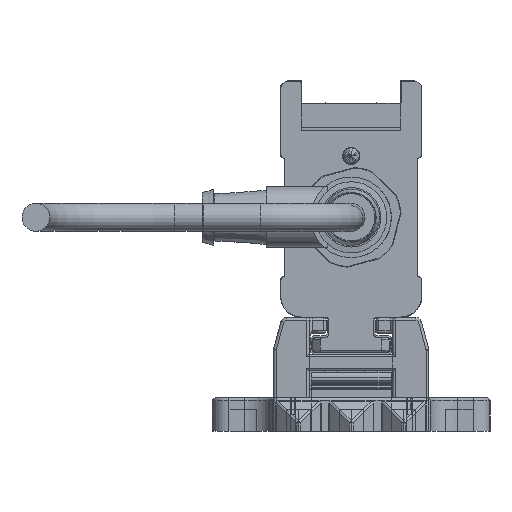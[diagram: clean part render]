
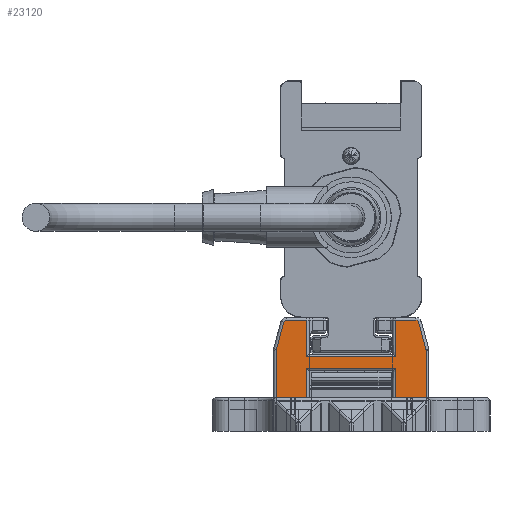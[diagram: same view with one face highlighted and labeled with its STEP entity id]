
A CAD part, left-side view. The second image highlights one B-rep face of the part: STEP entity #23120.
In plain terms, the highlighted planar face has unit normal (-1, 0, 0).
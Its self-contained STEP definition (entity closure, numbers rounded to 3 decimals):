
#23120=ADVANCED_FACE('', (#23130), #23140, .T.);
#117610=AXIS2_PLACEMENT_3D('Ax2Pl3d', #117620, #117630, #117640);
#117850=AXIS2_PLACEMENT_3D('Ax2Pl3d', #117860, #117870, #117880);
#122730=AXIS2_PLACEMENT_3D('Ax2Pl3d', #122740, #122750, #122760);
#127810=AXIS2_PLACEMENT_3D('Ax2Pl3d', #127820, #127830, #127840);
#137490=AXIS2_PLACEMENT_3D('Ax2Pl3d', #137500, #137510, #137520);
#453240=CARTESIAN_POINT('', (-747.669,-2246.345,
331.37));
#117620=CARTESIAN_POINT('HicPkt', (-747.669,-2245.379,
331.111));
#453250=CARTESIAN_POINT('', (-747.669,-2246.379,
331.111));
#453260=CARTESIAN_POINT('', (-747.669,-2245.037,
336.255));
#453280=CARTESIAN_POINT('', (-747.669,-2245.037,
336.255));
#453310=CARTESIAN_POINT('', (-747.669,-2244.554,
336.625));
#117860=CARTESIAN_POINT('HicPkt', (-747.669,-2244.554,
336.125));
#453530=CARTESIAN_POINT('', (-747.669,-2246.379,
322.625));
#453540=CARTESIAN_POINT('', (-747.669,-2240.881,
322.625));
#453550=CARTESIAN_POINT('', (-747.669,-2240.881,
322.625));
#453630=CARTESIAN_POINT('', (-747.669,-2224.881,
322.625));
#453640=CARTESIAN_POINT('', (-747.669,-2219.383,
322.625));
#453650=CARTESIAN_POINT('', (-747.669,-2219.383,
322.625));
#122740=CARTESIAN_POINT('HicPkt', (-747.669,-2221.209,
336.125));
#456120=CARTESIAN_POINT('', (-747.669,-2220.726,
336.255));
#456130=CARTESIAN_POINT('', (-747.669,-2221.209,
336.625));
#456140=CARTESIAN_POINT('', (-747.669,-2240.881,
330.025));
#456150=CARTESIAN_POINT('', (-747.669,-2224.881,
330.025));
#456160=CARTESIAN_POINT('', (-747.669,-2240.881,
330.025));
#456320=CARTESIAN_POINT('', (-747.669,-2240.881,
328.005));
#456330=CARTESIAN_POINT('', (-747.669,-2224.881,
328.005));
#456340=CARTESIAN_POINT('', (-747.669,-2224.881,
328.005));
#456350=CARTESIAN_POINT('', (-747.669,-2240.881,
328.005));
#456370=CARTESIAN_POINT('', (-747.669,-2224.881,
322.625));
#456380=CARTESIAN_POINT('', (-747.669,-2224.881,
330.025));
#456390=CARTESIAN_POINT('', (-747.669,-2224.881,336.625)
);
#457240=CARTESIAN_POINT('', (-747.669,-2224.881,336.625)
);
#457250=CARTESIAN_POINT('', (-747.669,-2220.726,
336.255));
#457260=CARTESIAN_POINT('', (-747.669,-2219.417,
331.37));
#457450=CARTESIAN_POINT('', (-747.669,-2219.383,331.111)
);
#457460=CARTESIAN_POINT('', (-747.669,-2219.383,331.111)
);
#127820=CARTESIAN_POINT('HicPkt', (-747.669,-2220.383,
331.111));
#458270=CARTESIAN_POINT('', (-747.669,-2246.379,
331.111));
#137500=CARTESIAN_POINT('HicPkt', (-747.669,-2244.554,
336.625));
#460070=CARTESIAN_POINT('', (-747.669,-2240.881,
336.625));
#460080=CARTESIAN_POINT('', (-747.669,-2240.881,
336.625));
#460090=CARTESIAN_POINT('', (-747.669,-2240.881,
336.625));
#522140=CIRCLE('Circle', #117610, 1.);
#522180=CIRCLE('Circle', #117850, 0.5);
#522760=CIRCLE('Circle', #122730, 0.5);
#523290=CIRCLE('Circle', #127810, 1.);
#117630=DIRECTION('Axis', (-1.,0.,
0.));
#117640=DIRECTION('RefDirection', (0.,
0.,-1.));
#730180=DIRECTION('', (0.,0.259,
0.966));
#117870=DIRECTION('Axis', (-1.,0.,
0.));
#117880=DIRECTION('RefDirection', (0.,
0.,-1.));
#730290=DIRECTION('', (0.,1.,0.));
#730330=DIRECTION('', (0.,1.,0.));
#122750=DIRECTION('Axis', (1.,0.,
0.));
#122760=DIRECTION('RefDirection', (0.,
0.,-1.));
#731520=DIRECTION('', (0.,-1.,0.));
#731620=DIRECTION('', (0.,1.,0.));
#731630=DIRECTION('', (0.,0.,1.));
#731650=DIRECTION('', (0.,0.,-1.));
#731660=DIRECTION('', (0.,0.,-1.));
#732090=DIRECTION('', (0.,-1.,0.));
#732100=DIRECTION('', (0.,-0.259,0.966));
#732190=DIRECTION('', (0.,0.,1.));
#127830=DIRECTION('Axis', (1.,0.,
0.));
#127840=DIRECTION('RefDirection', (0.,
0.,-1.));
#732560=DIRECTION('', (0.,0.,1.));
#137510=DIRECTION('Axis', (-1.,0.,
0.));
#137520=DIRECTION('RefDirection', (0.,
0.,-1.));
#733400=DIRECTION('', (0.,1.,0.));
#733410=DIRECTION('', (0.,0.,1.));
#785930=EDGE_CURVE('', #785940, #785920, #522140, .T.);
#785990=EDGE_CURVE('', #785920, #785970, #786000, .T.);
#786060=EDGE_CURVE('', #785970, #786050, #522180, .T.);
#786510=EDGE_CURVE('', #786500, #786520, #786530, .T.);
#786670=EDGE_CURVE('', #786660, #786680, #786690, .T.);
#791030=EDGE_CURVE('', #791040, #791050, #522760, .T.);
#791080=EDGE_CURVE('', #791090, #791100, #791110, .T.);
#791450=EDGE_CURVE('', #791430, #791460, #791470, .T.);
#791500=EDGE_CURVE('', #786520, #791430, #791510, .T.);
#791540=EDGE_CURVE('', #791460, #786660, #791550, .T.);
#791560=EDGE_CURVE('', #791570, #791090, #791580, .T.);
#793400=EDGE_CURVE('', #791050, #791570, #793410, .T.);
#793470=EDGE_CURVE('', #793480, #791040, #793490, .T.);
#793910=EDGE_CURVE('', #786680, #793920, #793930, .T.);
#793950=EDGE_CURVE('', #793920, #793480, #523290, .T.);
#795660=EDGE_CURVE('', #786500, #785940, #795670, .T.);
#799470=EDGE_CURVE('', #786050, #799480, #799490, .T.);
#799500=EDGE_CURVE('', #791100, #799480, #799510, .T.);
#950330=EDGE_LOOP('Edge_loop', (#950340,#950350,#950360,#950370,#950380,
#950390,#950400,#950410,#950420,#950430,#950440,#950450,#950460,#950470,
#950480,#950490,#950500,#950510));
#23130=FACE_OUTER_BOUND('Face_outer_bound', #950330, .T.);
#786000=LINE('Line', #453280, #1078570);
#786530=LINE('Line', #453540, #1078680);
#786690=LINE('Line', #453640, #1078720);
#791110=LINE('Line', #456140, #1079910);
#791470=LINE('Line', #456330, #1080010);
#791510=LINE('Line', #456350, #1080020);
#791550=LINE('Line', #456370, #1080040);
#791580=LINE('Line', #456380, #1080050);
#793410=LINE('Line', #457240, #1080480);
#793490=LINE('Line', #457250, #1080490);
#793930=LINE('Line', #457450, #1080580);
#795670=LINE('Line', #458270, #1080950);
#799490=LINE('Line', #460070, #1081790);
#799510=LINE('Line', #460090, #1081800);
#950340=ORIENTED_EDGE('', *, *, #799470, .T.);
#950350=ORIENTED_EDGE('', *, *, #799500, .F.);
#950360=ORIENTED_EDGE('', *, *, #791080, .F.);
#950370=ORIENTED_EDGE('', *, *, #791560, .F.);
#950380=ORIENTED_EDGE('', *, *, #793400, .F.);
#950390=ORIENTED_EDGE('', *, *, #791030, .F.);
#950400=ORIENTED_EDGE('', *, *, #793470, .F.);
#950410=ORIENTED_EDGE('', *, *, #793950, .F.);
#950420=ORIENTED_EDGE('', *, *, #793910, .F.);
#950430=ORIENTED_EDGE('', *, *, #786670, .F.);
#950440=ORIENTED_EDGE('', *, *, #791540, .F.);
#950450=ORIENTED_EDGE('', *, *, #791450, .F.);
#950460=ORIENTED_EDGE('', *, *, #791500, .F.);
#950470=ORIENTED_EDGE('', *, *, #786510, .F.);
#950480=ORIENTED_EDGE('', *, *, #795660, .T.);
#950490=ORIENTED_EDGE('', *, *, #785930, .T.);
#950500=ORIENTED_EDGE('', *, *, #785990, .T.);
#950510=ORIENTED_EDGE('', *, *, #786060, .T.);
#23140=PLANE('Plane', #137490);
#1078570=VECTOR('', #730180, 5.057);
#1078680=VECTOR('', #730290, 5.498);
#1078720=VECTOR('', #730330, 5.498);
#1079910=VECTOR('', #731520, 16.);
#1080010=VECTOR('', #731620, 16.);
#1080020=VECTOR('', #731630, 5.38);
#1080040=VECTOR('', #731650, 5.38);
#1080050=VECTOR('', #731660, 6.6);
#1080480=VECTOR('', #732090, 3.672);
#1080490=VECTOR('', #732100, 5.057);
#1080580=VECTOR('', #732190, 8.486);
#1080950=VECTOR('', #732560, 8.486);
#1081790=VECTOR('', #733400, 3.672);
#1081800=VECTOR('', #733410, 6.6);
#785920=VERTEX_POINT('', #453240);
#785940=VERTEX_POINT('', #453250);
#785970=VERTEX_POINT('', #453260);
#786050=VERTEX_POINT('', #453310);
#786500=VERTEX_POINT('', #453530);
#786520=VERTEX_POINT('', #453550);
#786660=VERTEX_POINT('', #453630);
#786680=VERTEX_POINT('', #453650);
#791040=VERTEX_POINT('', #456120);
#791050=VERTEX_POINT('', #456130);
#791090=VERTEX_POINT('', #456150);
#791100=VERTEX_POINT('', #456160);
#791430=VERTEX_POINT('', #456320);
#791460=VERTEX_POINT('', #456340);
#791570=VERTEX_POINT('', #456390);
#793480=VERTEX_POINT('', #457260);
#793920=VERTEX_POINT('', #457460);
#799480=VERTEX_POINT('', #460080);
